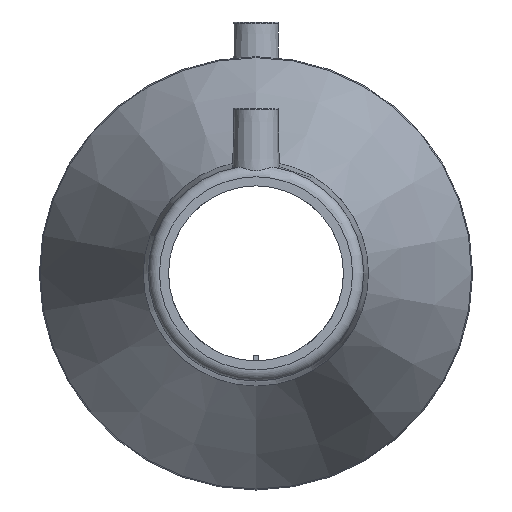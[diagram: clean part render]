
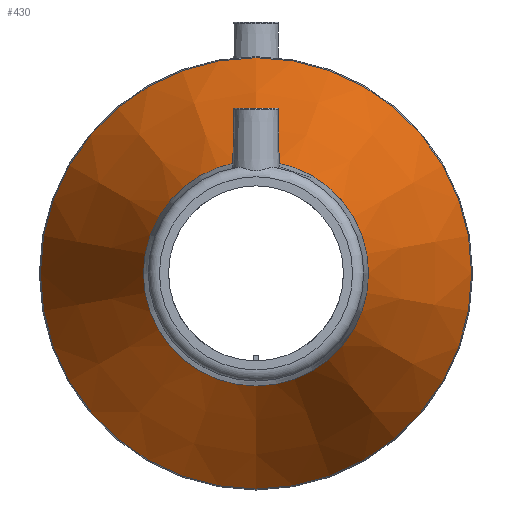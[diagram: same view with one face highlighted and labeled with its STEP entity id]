
A CAD part, left-side view. The second image highlights one B-rep face of the part: STEP entity #430.
In plain terms, the highlighted conical face has half-angle 24.057 degrees and reference radius 78 mm.
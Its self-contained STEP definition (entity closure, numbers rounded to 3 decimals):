
#77=CIRCLE('',#488,40.5);
#78=CIRCLE('',#489,77.653);
#112=ORIENTED_EDGE('',*,*,#204,.F.);
#113=ORIENTED_EDGE('',*,*,#205,.T.);
#204=EDGE_CURVE('',#250,#250,#77,.T.);
#205=EDGE_CURVE('',#251,#251,#78,.T.);
#250=VERTEX_POINT('',#742);
#251=VERTEX_POINT('',#744);
#296=EDGE_LOOP('',(#112));
#297=EDGE_LOOP('',(#113));
#362=FACE_BOUND('',#296,.T.);
#363=FACE_BOUND('',#297,.T.);
#420=CONICAL_SURFACE('',#487,78.,0.42);
#430=ADVANCED_FACE('',(#362,#363),#420,.T.);
#487=AXIS2_PLACEMENT_3D('',#740,#567,#568);
#488=AXIS2_PLACEMENT_3D('',#741,#569,#570);
#489=AXIS2_PLACEMENT_3D('',#743,#571,#572);
#567=DIRECTION('',(1.,0.,0.));
#568=DIRECTION('',(0.,0.,-1.));
#569=DIRECTION('',(-1.,0.,0.));
#570=DIRECTION('',(0.,0.,1.));
#571=DIRECTION('',(-1.,0.,0.));
#572=DIRECTION('',(0.,0.,1.));
#740=CARTESIAN_POINT('',(42.,0.,0.));
#741=CARTESIAN_POINT('',(-42.,0.,0.));
#742=CARTESIAN_POINT('',(-42.,0.,40.5));
#743=CARTESIAN_POINT('',(41.222,0.,0.));
#744=CARTESIAN_POINT('',(41.222,0.,77.653));
